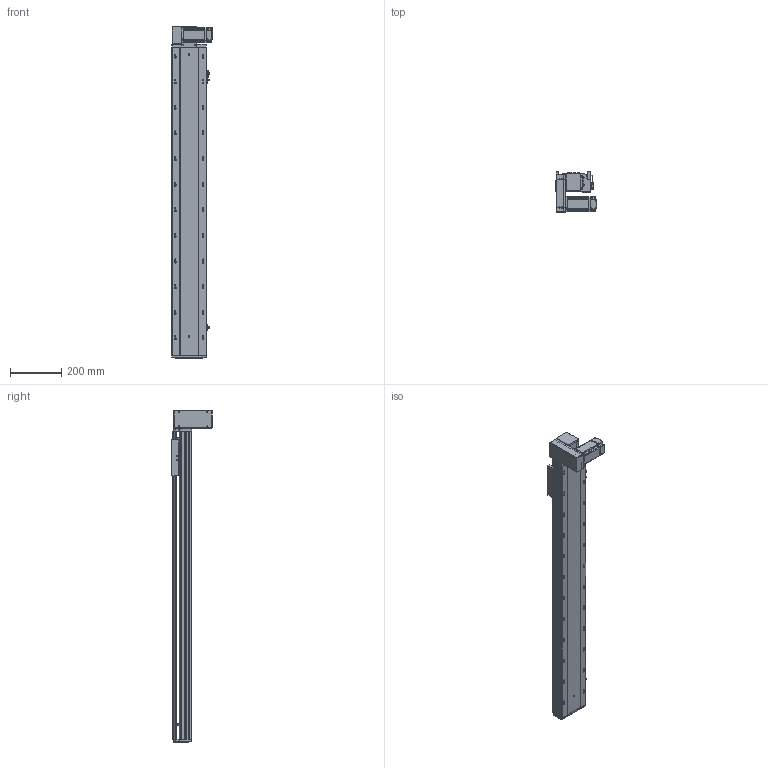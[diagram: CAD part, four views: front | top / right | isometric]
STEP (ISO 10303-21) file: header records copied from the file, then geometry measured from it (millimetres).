
FILE_DESCRIPTION (( 'STEP AP203' ), '1' );
FILE_NAME ('RY140-T-300-DL.SLDASM_950.step', '2021-03-01T06:06:21', ( '盈信电脑' ), ( '东莞市道滘镇水果街19号' ), 'SwSTEP 2.0', 'SolidWorks 2012', '' );
FILE_SCHEMA (( 'CONFIG_CONTROL_DESIGN' ));
Length unit declared in the file: millimetre
Products named in the file (18): RY140-T翋肮祭謫盓傅釱; RY140-T萇儂假蚾啣; 侂狟400W侜督萇儂; 15; RY120-T肮祭湍揤踡輸2; RY120-T肮祭湍揤踡輸1; RY120外置感应片(140共用）; RY140綴裔啣; RY140-T-300-DL倰第奻裔啣_950; RY140肮祭謫臏賑輸; 覜茼ん672; RY140-T-300-DL倰第菁釱_950; RY140-T萇儂欶; RY120-T蹟翐M4; RY120-T主同步轮轴承压盖; 滅袉蝶18-10; RY140-T-300-DL.SLDASM_950; RY140-T翋肮謫裔啣
Assembly tree (23 placements, depth 3):
  RY140-T-300-DL.SLDASM_950
    RY140-T-300-DL倰第菁釱_950
    RY140肮祭謫臏賑輸
    RY140-T-300-DL倰第奻裔啣_950
    RY140綴裔啣
    覜茼ん672  x3
    RY120外置感应片(140共用）
    RY120-T肮祭湍揤踡輸2
    RY120-T肮祭湍揤踡輸1
    RY140-T翋肮祭謫盓傅釱
    RY140-T萇儂假蚾啣
    侂狟400W侜督萇儂
      15
    RY120-T主同步轮轴承压盖
    RY120-T蹟翐M4  x4
    RY140-T萇儂欶
    滅袉蝶18-10  x2
    RY140-T翋肮謫裔啣
Bounding box: 157 x 158.5 x 1296 mm (x, y, z)
Volume: 3869075.2 mm3; surface area: 1477150.6 mm2
Topology: 22 solids, 22 shells, 2754 faces, 7610 edges, 4890 vertices
Faces by surface type: plane 1385, cylinder 1051, cone 218, bspline 100
Entity records: 88032 total; most frequent: CARTESIAN_POINT 21649, ORIENTED_EDGE 13708, DIRECTION 12948, EDGE_CURVE 6854, VERTEX_POINT 4489, AXIS2_PLACEMENT_3D 4321, LINE 4306, VECTOR 4306
